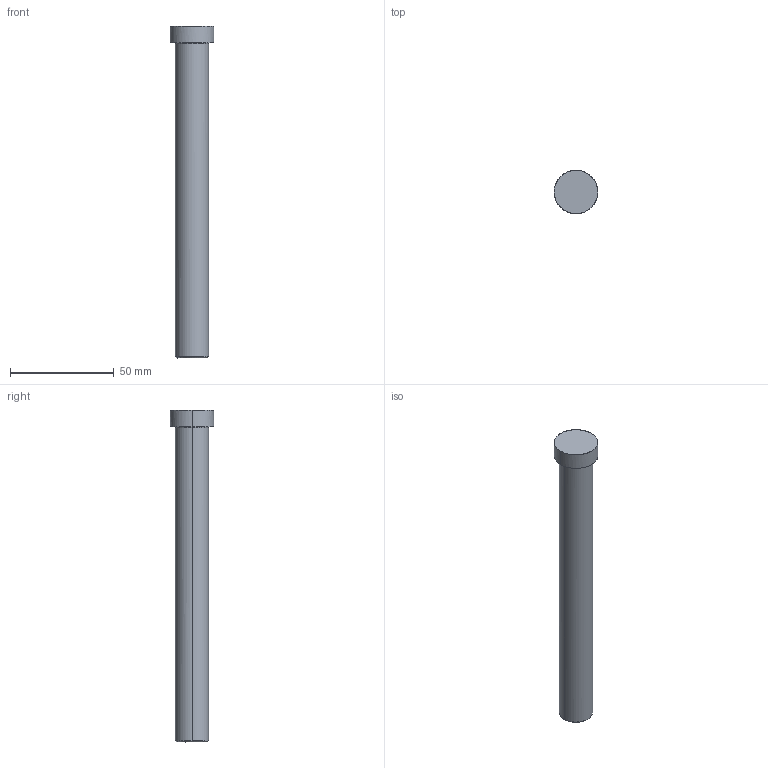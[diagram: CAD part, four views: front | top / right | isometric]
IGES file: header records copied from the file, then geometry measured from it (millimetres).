
Global section: file name: E:\UnigraphicsGraphicData\MISUMI_PRESS-PARTS\IGES\3d_hcup16-160_01338_r00.igs; native system: NX V5.0; preprocessor: UGS NX IGES V5.0; author: MISUMI; date: 20110105.160933; units: millimetre
Bounding box: 21 x 21 x 160 mm (x, y, z)
Surface area: 8837.2 mm2 (no closed solid volume)
Topology: 0 solids, 0 shells, 11 faces, 64 edges, 64 vertices
Faces by surface type: bspline 11
